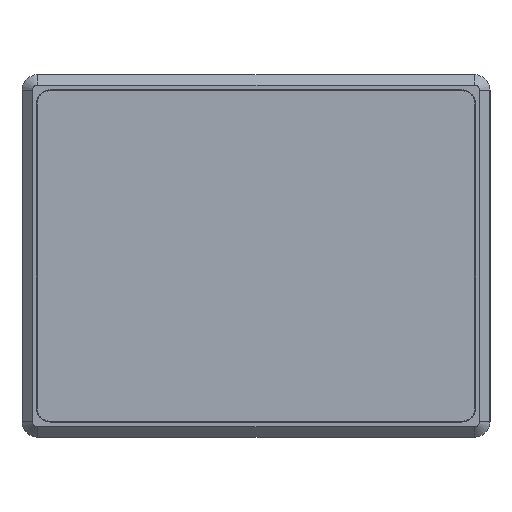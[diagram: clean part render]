
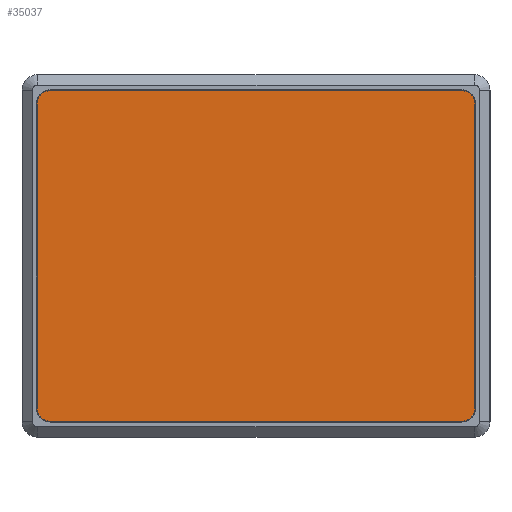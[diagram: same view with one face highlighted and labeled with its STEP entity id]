
A CAD part, top view. The second image highlights one B-rep face of the part: STEP entity #35037.
In plain terms, the highlighted planar face has unit normal (0, 0, 1).
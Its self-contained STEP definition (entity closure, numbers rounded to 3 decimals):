
#12279=CARTESIAN_POINT('',(82.9,3.9,48.4));
#12280=DIRECTION('',(0.,0.,-1.));
#12281=DIRECTION('',(1.,0.,0.));
#12282=AXIS2_PLACEMENT_3D('',#12279,#12280,#12281);
#12284=DIRECTION('',(-1.,0.,0.));
#12285=VECTOR('',#12284,79.);
#12286=CARTESIAN_POINT('',(82.9,1.3,48.4));
#12287=LINE('',#12286,#12285);
#12288=CARTESIAN_POINT('',(3.9,3.9,48.4));
#12289=DIRECTION('',(0.,0.,-1.));
#12290=DIRECTION('',(0.,-1.,0.));
#12291=AXIS2_PLACEMENT_3D('',#12288,#12289,#12290);
#12293=DIRECTION('',(0.,1.,0.));
#12294=VECTOR('',#12293,58.4);
#12295=CARTESIAN_POINT('',(1.3,3.9,48.4));
#12296=LINE('',#12295,#12294);
#12297=CARTESIAN_POINT('',(3.9,62.3,48.4));
#12298=DIRECTION('',(0.,0.,-1.));
#12299=DIRECTION('',(-1.,0.,0.));
#12300=AXIS2_PLACEMENT_3D('',#12297,#12298,#12299);
#12302=DIRECTION('',(1.,0.,0.));
#12303=VECTOR('',#12302,79.);
#12304=CARTESIAN_POINT('',(3.9,64.9,48.4));
#12305=LINE('',#12304,#12303);
#12306=CARTESIAN_POINT('',(82.9,62.3,48.4));
#12307=DIRECTION('',(0.,0.,-1.));
#12308=DIRECTION('',(0.,1.,0.));
#12309=AXIS2_PLACEMENT_3D('',#12306,#12307,#12308);
#12311=DIRECTION('',(0.,-1.,0.));
#12312=VECTOR('',#12311,58.4);
#12313=CARTESIAN_POINT('',(85.5,62.3,48.4));
#12314=LINE('',#12313,#12312);
#13595=CARTESIAN_POINT('',(3.9,1.3,48.4));
#13596=VERTEX_POINT('',#13595);
#13597=CARTESIAN_POINT('',(82.9,1.3,48.4));
#13598=VERTEX_POINT('',#13597);
#13974=CARTESIAN_POINT('',(82.9,64.9,48.4));
#13975=VERTEX_POINT('',#13974);
#13976=CARTESIAN_POINT('',(3.9,64.9,48.4));
#13977=VERTEX_POINT('',#13976);
#16369=CARTESIAN_POINT('',(85.5,3.9,48.4));
#16370=VERTEX_POINT('',#16369);
#16371=CARTESIAN_POINT('',(1.3,3.9,48.4));
#16372=VERTEX_POINT('',#16371);
#16373=CARTESIAN_POINT('',(1.3,62.3,48.4));
#16374=VERTEX_POINT('',#16373);
#16375=CARTESIAN_POINT('',(85.5,62.3,48.4));
#16376=VERTEX_POINT('',#16375);
#35017=CARTESIAN_POINT('',(3.9,62.3,48.4));
#35018=DIRECTION('',(0.,0.,1.));
#35019=DIRECTION('',(-1.,0.,0.));
#35020=AXIS2_PLACEMENT_3D('',#35017,#35018,#35019);
#35021=PLANE('',#35020);
#35022=ORIENTED_EDGE('',*,*,#35010,.T.);
#35023=ORIENTED_EDGE('',*,*,#17409,.T.);
#35025=ORIENTED_EDGE('',*,*,#35024,.T.);
#35027=ORIENTED_EDGE('',*,*,#35026,.T.);
#35029=ORIENTED_EDGE('',*,*,#35028,.T.);
#35030=ORIENTED_EDGE('',*,*,#18561,.T.);
#35032=ORIENTED_EDGE('',*,*,#35031,.T.);
#35034=ORIENTED_EDGE('',*,*,#35033,.T.);
#35035=EDGE_LOOP('',(#35022,#35023,#35025,#35027,#35029,#35030,#35032,#35034));
#35036=FACE_OUTER_BOUND('',#35035,.F.);
#12283=CIRCLE('',#12282,2.6);
#12292=CIRCLE('',#12291,2.6);
#12301=CIRCLE('',#12300,2.6);
#12310=CIRCLE('',#12309,2.6);
#17409=EDGE_CURVE('',#13598,#13596,#12287,.T.);
#18561=EDGE_CURVE('',#13977,#13975,#12305,.T.);
#35010=EDGE_CURVE('',#16370,#13598,#12283,.T.);
#35024=EDGE_CURVE('',#13596,#16372,#12292,.T.);
#35026=EDGE_CURVE('',#16372,#16374,#12296,.T.);
#35028=EDGE_CURVE('',#16374,#13977,#12301,.T.);
#35031=EDGE_CURVE('',#13975,#16376,#12310,.T.);
#35033=EDGE_CURVE('',#16376,#16370,#12314,.T.);
#35037=ADVANCED_FACE('',(#35036),#35021,.T.);
